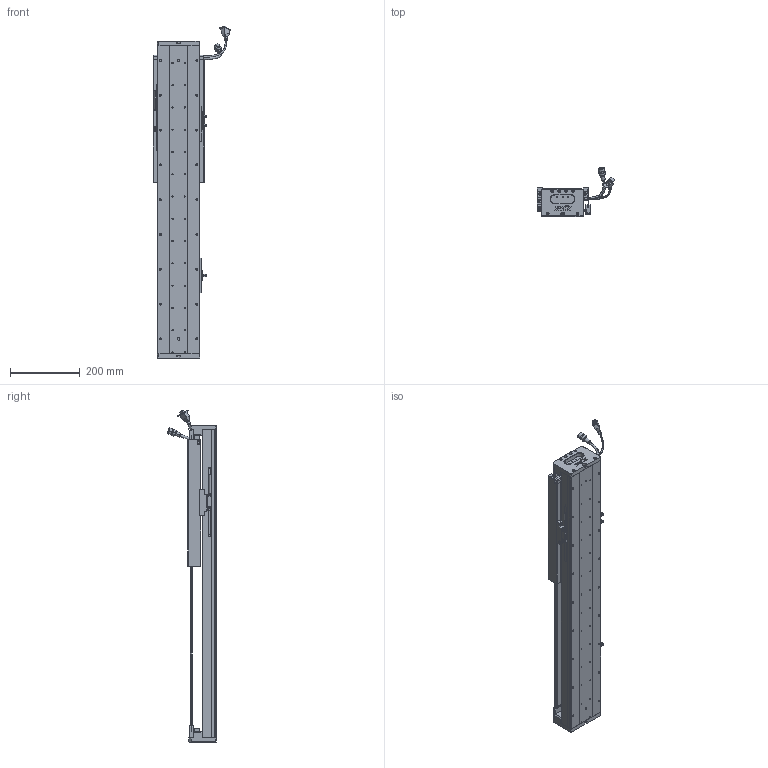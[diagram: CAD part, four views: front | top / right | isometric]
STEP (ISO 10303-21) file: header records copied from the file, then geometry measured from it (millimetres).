
FILE_DESCRIPTION (( 'STEP AP203' ), '1' );
FILE_NAME ('Z5-RY120D-1-L500-B-K.SLDASM_0450.step', '2021-05-17T06:21:17', ( '盈信电脑' ), ( '东莞市道滘镇水果街19号' ), 'SwSTEP 2.0', 'SolidWorks 2016', '' );
FILE_SCHEMA (( 'CONFIG_CONTROL_DESIGN' ));
Length unit declared in the file: millimetre
Products named in the file (37): PBU_SHEET; LABEL; Z5-RY120D-1-L500-B-K.SLDASM_0450; 140蚥薯蝶輸; SCREW-M1.7; HARNESS-Part-1; COVER; SCREW-M1.7-1; 672嫖萇羲壽假蚾釱; PSLH080_PSLF2; Z5-RY120-L500詩湍100mm遵_0450; Z5-RY120铝滑块（21款）; LABEL-Part-1; SCALE-Part-1; SCREW-M1.6-1; 榋妏寠巭燃_暯_M2_2; SCALE; Z-RY120D詩湍狟揤裔; SCREW-M1.6-2; HARNESS-Part-2; COVER-Part-1; RY100FB-遵嫖萇覜茼え; SCREW-M1.6; Z-RY120D詩湍奻揤裔; SCALE-Part-2; 120-Z-臏賑輸盄裔(21遴); Z5-RY120-500-倰第菁釱_0450; HOLDER0; SEAL; HARNESS; SCREW-M1.6-3; 140雄赽晤鎢ん堤盄; SHIELDPLATE; 080黍杅芛假蚾釱21遴; SEAL-Part-1; 覜茼ん672; Z-120詩湍傷裔啣
Assembly tree (43 placements, depth 4):
  Z5-RY120D-1-L500-B-K.SLDASM_0450
    Z5-RY120-500-倰第菁釱_0450
    覜茼ん672  x3
    672嫖萇羲壽假蚾釱  x2
    Z5-RY120铝滑块（21款）
    PSLH080_PSLF2
      SCALE
        SCALE-Part-1
        SCALE-Part-2
      HARNESS
        HARNESS-Part-1
        HARNESS-Part-2
      LABEL
        LABEL-Part-1
      COVER
        COVER-Part-1
      SEAL
        SEAL-Part-1
      榋妏寠巭燃_暯_M2_2
      SHIELDPLATE
      SCREW-M1.7
      SCREW-M1.7-1
      PBU_SHEET
      SCREW-M1.6
      SCREW-M1.6-1
      SCREW-M1.6-2
      SCREW-M1.6-3
      HOLDER0
    080黍杅芛假蚾釱21遴
    120-Z-臏賑輸盄裔(21遴)
    140雄赽晤鎢ん堤盄
    140蚥薯蝶輸  x2
    RY100FB-遵嫖萇覜茼え
    Z-120詩湍傷裔啣  x2
    Z-RY120D詩湍奻揤裔  x2
    Z-RY120D詩湍狟揤裔  x2
    Z5-RY120-L500詩湍100mm遵_0450
Bounding box: 222.88 x 140.94 x 954 mm (x, y, z)
Volume: 3156637 mm3; surface area: 984169.1 mm2
Topology: 38 solids, 38 shells, 2801 faces, 7513 edges, 4750 vertices
Faces by surface type: cylinder 1287, plane 1122, cone 270, torus 69, bspline 53
Entity records: 83268 total; most frequent: CARTESIAN_POINT 21673, ORIENTED_EDGE 12010, DIRECTION 11965, EDGE_CURVE 6005, AXIS2_PLACEMENT_3D 4396, VERTEX_POINT 3870, LINE 3173, VECTOR 3173
